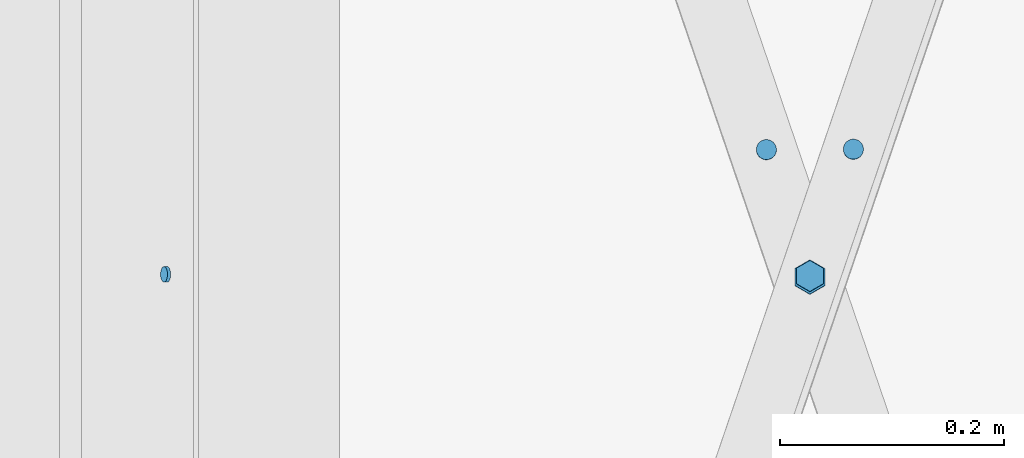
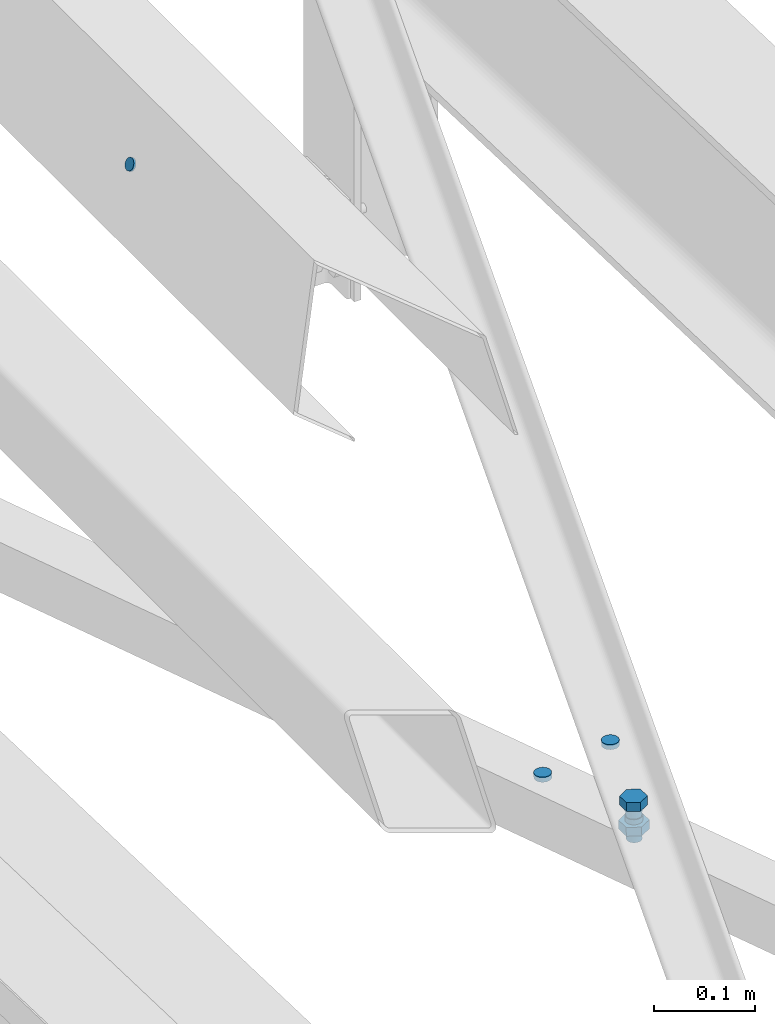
# One storey, part 318 of 362: 4 mechanical fasteners.
"""IFC2X3 building model written with IfcOpenShell, lengths in millimetres."""

import ifcopenshell
import ifcopenshell.guid

model = None  # the IFC model being written
_history = None  # IfcOwnerHistory: only IFC2X3 demands one
_inside = {}  # id of a spatial element -> (the spatial element, [elements in it])
_under = {}  # id of a project, library or spatial element -> (it, [spatial elements below it])
_declared = {}  # id of a project -> (the project, [libraries it declares])
_typed = {}  # id of a type object -> (the type object, [elements of that type])
_made_of = {}  # id of a material, layer set ... -> (it, [elements and type objects made of it])


def new_model(schema):
    """Start an empty IFC model of exactly this schema.

    Asked for "IFC4X3", IfcOpenShell would pick the latest addendum, in which some entities
    have other attributes; the version numbers below select the first issue.
    IFC2X3 requires an IfcOwnerHistory on every rooted entity: one is made here for all.
    """
    global model, _history
    if schema == "IFC4X3":
        model = ifcopenshell.file(schema_version=(4, 3, 0, 0))
    else:
        model = ifcopenshell.file(schema=schema)
    _inside.clear()
    _under.clear()
    _declared.clear()
    _typed.clear()
    _made_of.clear()
    _history = None
    if model.schema == "IFC2X3":
        org = make("IfcOrganization", Name="unknown")
        user = make(
            "IfcPersonAndOrganization",
            ThePerson=make("IfcPerson", FamilyName="unknown"),
            TheOrganization=org,
        )
        app = make(
            "IfcApplication",
            ApplicationDeveloper=org,
            Version="unknown",
            ApplicationFullName="unknown",
            ApplicationIdentifier="unknown",
        )
        _history = make(
            "IfcOwnerHistory",
            OwningUser=user,
            OwningApplication=app,
            ChangeAction="ADDED",
            CreationDate=0,
        )
    return model


def make(cls, **values):
    """One entity of the class cls with the attributes given. An attribute that is None is left unset."""
    return model.create_entity(
        cls, **{name: value for name, value in values.items() if value is not None}
    )


def rooted(cls, **values):
    """An entity with a GlobalId (a new one), such as an element, a storey or a relation."""
    return make(cls, GlobalId=ifcopenshell.guid.new(), OwnerHistory=_history, **values)


def si_unit(unit_type, name, prefix=None):
    """IfcSIUnit, for example si_unit("LENGTHUNIT", "METRE", prefix="MILLI")."""
    return make("IfcSIUnit", UnitType=unit_type, Prefix=prefix, Name=name)


def assignment(units):
    """IfcUnitAssignment: the units of a project."""
    return None if units is None else make("IfcUnitAssignment", Units=units)


def point(xyz):
    """IfcCartesianPoint."""
    return None if xyz is None else make("IfcCartesianPoint", Coordinates=xyz)


def direction(xyz):
    """IfcDirection."""
    return None if xyz is None else make("IfcDirection", DirectionRatios=xyz)


def frame(location, z_axis=None, x_axis=None):
    """IfcAxis2Placement3D, a coordinate frame: its origin and axes. An axis left out is left unset."""
    return make(
        "IfcAxis2Placement3D",
        Location=point(location),
        Axis=direction(z_axis),
        RefDirection=direction(x_axis),
    )


def frame_2d(location, x_axis=None):
    """IfcAxis2Placement2D, a coordinate frame in the plane: its origin and x axis."""
    return make(
        "IfcAxis2Placement2D", Location=point(location), RefDirection=direction(x_axis)
    )


def origin_with_axes():
    """The frame at (0, 0, 0) with the z axis (0, 0, 1) and the x axis (1, 0, 0) written out."""
    return frame((0.0, 0.0, 0.0), z_axis=(0.0, 0.0, 1.0), x_axis=(1.0, 0.0, 0.0))


def origin_2d_with_axis():
    """The frame at (0, 0) in the plane with the x axis (1, 0) written out."""
    return frame_2d((0.0, 0.0), x_axis=(1.0, 0.0))


def place(relative_to, where):
    """IfcLocalPlacement: puts the frame where relative to a parent placement (None: the world)."""
    return make(
        "IfcLocalPlacement", PlacementRelTo=relative_to, RelativePlacement=where
    )


def context(
    kind, dimensions, precision=None, world=None, true_north=None, identifier=None
):
    """IfcGeometricRepresentationContext, for example the 3D "Model" context."""
    return make(
        "IfcGeometricRepresentationContext",
        ContextIdentifier=identifier,
        ContextType=kind,
        CoordinateSpaceDimension=dimensions,
        Precision=precision,
        WorldCoordinateSystem=world,
        TrueNorth=true_north,
    )


def subcontext(parent, identifier, kind, view, scale=None):
    """IfcGeometricRepresentationSubContext, for example "Body" below "Model"."""
    return make(
        "IfcGeometricRepresentationSubContext",
        ContextIdentifier=identifier,
        ContextType=kind,
        ParentContext=parent,
        TargetScale=scale,
        TargetView=view,
    )


def project(units=None, contexts=None):
    """IfcProject with its units and contexts."""
    return rooted(
        "IfcProject",
        Name="project",
        RepresentationContexts=contexts,
        UnitsInContext=assignment(units),
    )


def spatial(cls, under=None, at=None, **own):
    """A site, building, storey or space (cls), placed at a placement, below another one or the project."""
    s = rooted(cls, ObjectPlacement=at, **own)
    if under is not None:
        _under.setdefault(under.id(), (under, []))[1].append(s)
    return s


def polyline(points):
    """IfcPolyline through the points."""
    return make("IfcPolyline", Points=[point(p) for p in points])


def profile(cls, at=None, kind="AREA", **sizes):
    """A parametric profile (cls). Its sizes go by their IFC names, for example OverallWidth=200.0."""
    return make(cls, ProfileType=kind, Position=at, **sizes)


def circle(**sizes):
    """IfcCircleProfileDef."""
    return profile("IfcCircleProfileDef", **sizes)


def outline(outer, holes=None, kind="AREA"):
    """IfcArbitraryClosedProfileDef: a profile drawn as a closed curve; with holes, ...WithVoids."""
    if holes is None:
        return make("IfcArbitraryClosedProfileDef", ProfileType=kind, OuterCurve=outer)
    return make(
        "IfcArbitraryProfileDefWithVoids",
        ProfileType=kind,
        OuterCurve=outer,
        InnerCurves=holes,
    )


def extrude(swept, where, along, depth):
    """IfcExtrudedAreaSolid: the profile swept, set in the frame where, extruded along a direction by depth."""
    return make(
        "IfcExtrudedAreaSolid",
        SweptArea=swept,
        Position=where,
        ExtrudedDirection=direction(along),
        Depth=depth,
    )


def shape(context_of_items, identifier, shape_type, items):
    """IfcShapeRepresentation: the items that make up one representation, for example the "Body"."""
    return make(
        "IfcShapeRepresentation",
        ContextOfItems=context_of_items,
        RepresentationIdentifier=identifier,
        RepresentationType=shape_type,
        Items=items,
    )


def source(mapping_origin, context_of_items, identifier, shape_type, items):
    """IfcRepresentationMap: a shape defined once, which mapped items show again and again."""
    return make(
        "IfcRepresentationMap",
        MappingOrigin=mapping_origin,
        MappedRepresentation=shape(context_of_items, identifier, shape_type, items),
    )


def transform(
    local_origin,
    x_axis=None,
    y_axis=None,
    z_axis=None,
    scale=None,
    scale2=None,
    scale3=None,
    uniform=True,
):
    """IfcCartesianTransformationOperator3D, or its non-uniform kind. x_axis, y_axis, z_axis: its Axis1, 2, 3."""
    if uniform:
        return make(
            "IfcCartesianTransformationOperator3D",
            Axis1=direction(x_axis),
            Axis2=direction(y_axis),
            LocalOrigin=point(local_origin),
            Scale=scale,
            Axis3=direction(z_axis),
        )
    return make(
        "IfcCartesianTransformationOperator3DnonUniform",
        Axis1=direction(x_axis),
        Axis2=direction(y_axis),
        LocalOrigin=point(local_origin),
        Scale=scale,
        Axis3=direction(z_axis),
        Scale2=scale2,
        Scale3=scale3,
    )


def mapped(mapping_source, mapping_target):
    """IfcMappedItem: shows the shape of a source again, moved by a transform."""
    return make(
        "IfcMappedItem", MappingSource=mapping_source, MappingTarget=mapping_target
    )


def material(Name=None, Category=None):
    """IfcMaterial."""
    return make("IfcMaterial", Name=Name, Category=Category)


def made_of(thing, what):
    """Note that an element or type object is made of a material, layer set ...; save() writes the relation."""
    if what is not None:
        _made_of.setdefault(what.id(), (what, []))[1].append(thing)
    return thing


def type_object(cls, material=None, **own):
    """A type object (cls), such as IfcWallType, which elements share."""
    return made_of(rooted(cls, **own), material)


def element(
    cls,
    number,
    at=None,
    inside=None,
    cuts=None,
    type_object=None,
    material=None,
    context=None,
    identifier="Body",
    shape_type=None,
    held_by="IfcProductDefinitionShape",
    body=None,
    shapes=None,
    **own,
):
    """One element of the class cls, such as IfcWall. Its Tag is "e" and its number.

    at: its placement. inside: the storey or other place that contains it. cuts: it is an
    opening in that element (IfcRelVoidsElement). A single representation is given by context,
    identifier, shape_type and body (its items); several are given by shapes. held_by: the class
    of the entity that holds the representations. save() writes the other relations.
    """
    e = rooted(cls, Tag="e%d" % number, ObjectPlacement=at, **own)
    if body is not None:
        shapes = [shape(context, identifier, shape_type, body)]
    if shapes is not None:
        e.Representation = make(held_by, Representations=shapes)
    if inside is not None:
        _inside.setdefault(inside.id(), (inside, []))[1].append(e)
    if cuts is not None:
        rooted(
            "IfcRelVoidsElement", RelatingBuildingElement=cuts, RelatedOpeningElement=e
        )
    if type_object is not None:
        _typed.setdefault(type_object.id(), (type_object, []))[1].append(e)
    return made_of(e, material)


def aggregate(whole, parts):
    """IfcRelAggregates: a whole, such as a stair, and the parts it consists of."""
    return rooted("IfcRelAggregates", RelatingObject=whole, RelatedObjects=parts)


def save(model, path):
    """Write the relations noted so far, then the file.

    IfcRelAggregates (storeys below a building ...), IfcRelContainedInSpatialStructure (elements
    in a storey), IfcRelDefinesByType, IfcRelAssociatesMaterial and IfcRelDeclares: one each for
    every whole, place, type object, material and project.
    """
    for whole, parts in _under.values():
        aggregate(whole, parts)
    for where, things in _inside.values():
        rooted(
            "IfcRelContainedInSpatialStructure",
            RelatedElements=things,
            RelatingStructure=where,
        )
    for kind, things in _typed.values():
        rooted("IfcRelDefinesByType", RelatedObjects=things, RelatingType=kind)
    for what, things in _made_of.values():
        rooted("IfcRelAssociatesMaterial", RelatedObjects=things, RelatingMaterial=what)
    for by, libraries in _declared.values():
        rooted("IfcRelDeclares", RelatingContext=by, RelatedDefinitions=libraries)
    model.write(path)


model = new_model("IFC2X3")

# Units and contexts
model_context = context("Model", 3, precision=1e-05, world=origin_with_axes())
body_context = subcontext(model_context, "Body", "Model", "MODEL_VIEW")
ifc_project = project(units=[si_unit("LENGTHUNIT", "METRE", prefix="MILLI"), si_unit("AREAUNIT", "SQUARE_METRE"), si_unit("VOLUMEUNIT", "CUBIC_METRE"), si_unit("MASSUNIT", "GRAM", prefix="KILO"), si_unit("TIMEUNIT", "SECOND"), si_unit("PLANEANGLEUNIT", "RADIAN"), si_unit("SOLIDANGLEUNIT", "STERADIAN"), si_unit("THERMODYNAMICTEMPERATUREUNIT", "DEGREE_CELSIUS"), si_unit("LUMINOUSINTENSITYUNIT", "LUMEN")], contexts=[model_context])

# Site, building, storey
site_placement = place(None, origin_with_axes())
site = spatial("IfcSite", under=ifc_project, at=site_placement, Name="Undefined", CompositionType="ELEMENT")
building_placement = place(site_placement, origin_with_axes())
building = spatial("IfcBuilding", under=site, at=building_placement, Name="Undefined", CompositionType="ELEMENT")
storey_placement = place(building_placement, origin_with_axes())
storey = spatial("IfcBuildingStorey", under=building, at=storey_placement, Name="Undefined", CompositionType="ELEMENT", Elevation=0.0)

# Mechanical fasteners
ifc_material_1 = material(Name="6.8")
mechanical_fastener_type = type_object("IfcMechanicalFastenerType", Name="Bolt assembly")
shared_shape_1 = source(origin_with_axes(), body_context, "Body", "SweptSolid", [
    extrude(circle(Radius=7.0, at=origin_2d_with_axis()), frame((0.0, 0.0, 0.0), z_axis=(0.0, 1.0, 0.0), x_axis=(1.0, 0.0, 0.0)), (0.0, 0.0, 1.0), 3.1),
])
mechanical_fastener_1_placement = place(storey_placement, frame((38403.4787428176, 1900.0000204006, 8852.76597264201), z_axis=(0.0, -1.0, 0.0), x_axis=(-0.441220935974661, 0.0, -0.89739850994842)))
element("IfcMechanicalFastener", 1, at=mechanical_fastener_1_placement, inside=storey, type_object=mechanical_fastener_type, material=ifc_material_1, Name="Bolt assembly", NominalDiameter=12.0, NominalLength=3.0, context=body_context, shape_type="MappedRepresentation", body=[
    mapped(shared_shape_1, transform((0.0, 0.0, 0.0))),
])
ifc_material_2 = material(Name="8.8-SB-ZINGUE")
shared_shape_2 = source(origin_with_axes(), body_context, "Body", "SweptSolid", [
    extrude(circle(Radius=9.0, at=origin_2d_with_axis()), frame((0.0, 6.00127900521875, 0.0), z_axis=(0.0, 1.0, 0.0), x_axis=(1.0, 0.0, 0.0)), (0.0, 0.0, 1.0), 6.1),
])
mechanical_fastener_2_placement = place(storey_placement, frame((38941.1752487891, 2011.60260195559, 7866.72152483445), z_axis=(-0.323544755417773, 0.945745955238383, -0.0297216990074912), x_axis=(0.946212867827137, 0.323385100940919, -0.0101629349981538)))
element("IfcMechanicalFastener", 2, at=mechanical_fastener_2_placement, inside=storey, type_object=mechanical_fastener_type, material=ifc_material_2, Name="Bolt assembly", NominalDiameter=16.0, NominalLength=6.0, context=body_context, shape_type="MappedRepresentation", body=[
    mapped(shared_shape_2, transform((0.0, 0.0, 0.0))),
])
shared_shape_3 = source(origin_with_axes(), body_context, "Body", "SweptSolid", [
    extrude(circle(Radius=9.0, at=origin_2d_with_axis()), frame((0.0, -5.99866339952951, 0.0), z_axis=(0.0, 1.0, 0.0), x_axis=(1.0, 0.0, 0.0)), (0.0, 0.0, 1.0), 6.1),
])
mechanical_fastener_3_placement = place(storey_placement, frame((39018.8247753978, 2011.60259068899, 7866.72152518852), z_axis=(-0.323544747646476, -0.945745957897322, 0.0297216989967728), x_axis=(-0.946212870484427, 0.323385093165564, -0.0101629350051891)))
element("IfcMechanicalFastener", 3, at=mechanical_fastener_3_placement, inside=storey, type_object=mechanical_fastener_type, material=ifc_material_2, Name="Bolt assembly", NominalDiameter=16.0, NominalLength=6.0, context=body_context, shape_type="MappedRepresentation", body=[
    mapped(shared_shape_3, transform((0.0, 0.0, 0.0))),
])
shared_shape_4 = source(origin_with_axes(), body_context, "Body", "SweptSolid", [
    extrude(circle(Radius=9.0, at=origin_2d_with_axis()), frame((0.0, 2.90320279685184, 0.0), z_axis=(0.0, 1.0, 0.0), x_axis=(1.0, 0.0, 0.0)), (0.0, 0.0, 1.0), 6.1),
    extrude(circle(Radius=9.0, at=origin_2d_with_axis()), frame((0.0, -8.89673959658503, 0.0), z_axis=(0.0, 1.0, 0.0), x_axis=(1.0, 0.0, 0.0)), (0.0, 0.0, 1.0), 6.0),
    extrude(outline(polyline([(13.85640646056, 0.0), (6.92820323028, 12.0000000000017), (-6.92820323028, 12.0000000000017), (-13.85640646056, 0.0), (-6.92820323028, -12.0000000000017), (6.92820323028, -12.0000000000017), (13.85640646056, 0.0)])), frame((0.0, -19.556739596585, 0.0), z_axis=(0.0, 1.0, 0.0), x_axis=(1.0, 0.0, 0.0)), (0.0, 0.0, 1.0), 10.56),
    extrude(circle(Radius=8.0, at=origin_2d_with_axis()), frame((0.0, -8.99673959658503, 0.0), z_axis=(0.0, 1.0, 0.0), x_axis=(1.0, 0.0, 0.0)), (0.0, 0.0, 1.0), 40.0),
    extrude(outline(polyline([(15.3344231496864, 0.0), (7.6672115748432, 13.2800000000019), (-7.6672115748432, 13.2800000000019), (-15.3344231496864, 0.0), (-7.6672115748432, -13.2800000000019), (7.6672115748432, -13.2800000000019), (15.3344231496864, 0.0)])), frame((0.0, 9.00320279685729, 0.0), z_axis=(0.0, 1.0, 0.0), x_axis=(1.0, 0.0, 0.0)), (0.0, 0.0, 1.0), 10.56),
])
mechanical_fastener_4_placement = place(storey_placement, frame((38980.0000151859, 1898.02069063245, 7867.29157254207), z_axis=(-1.0, 0.0, 0.0), x_axis=(3.14103090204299e-11, 0.999506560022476, -0.0314107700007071)))
element("IfcMechanicalFastener", 4, at=mechanical_fastener_4_placement, inside=storey, type_object=mechanical_fastener_type, material=ifc_material_2, Name="Bolt assembly", NominalDiameter=16.0, NominalLength=40.0, context=body_context, shape_type="MappedRepresentation", body=[
    mapped(shared_shape_4, transform((0.0, 0.0, 0.0))),
])

save(model, "model.ifc")
